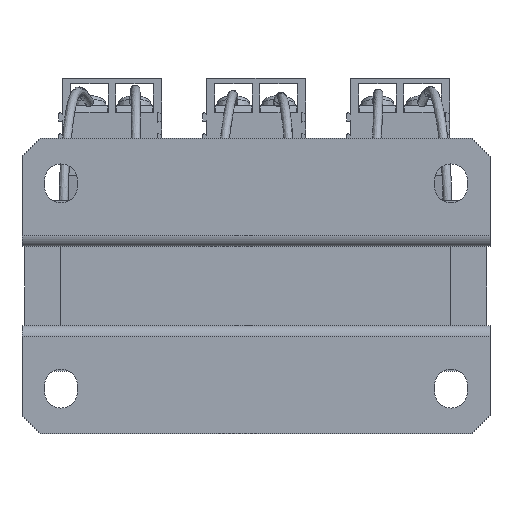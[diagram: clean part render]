
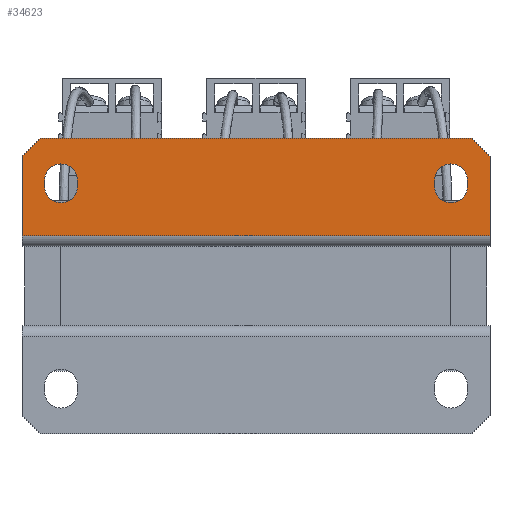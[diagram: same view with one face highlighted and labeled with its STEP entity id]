
A CAD part, front view. The second image highlights one B-rep face of the part: STEP entity #34623.
In plain terms, the highlighted planar face has unit normal (0, -1, 0).
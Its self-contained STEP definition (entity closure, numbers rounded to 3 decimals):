
#3260=LINE('',#58619,#6714);
#3264=LINE('',#58626,#6718);
#3274=LINE('',#58654,#6728);
#3276=LINE('',#58658,#6730);
#3278=LINE('',#58663,#6732);
#3282=LINE('',#58672,#6736);
#3284=LINE('',#58679,#6738);
#3288=LINE('',#58688,#6742);
#3293=LINE('',#58707,#6747);
#3294=LINE('',#58709,#6748);
#6714=VECTOR('',#44637,10.);
#6718=VECTOR('',#44643,10.);
#6728=VECTOR('',#44665,10.);
#6730=VECTOR('',#44669,10.);
#6732=VECTOR('',#44673,10.);
#6736=VECTOR('',#44683,10.);
#6738=VECTOR('',#44691,10.);
#6742=VECTOR('',#44701,10.);
#6747=VECTOR('',#44730,10.);
#6748=VECTOR('',#44733,10.);
#7866=FACE_BOUND('',#11308,.T.);
#7867=FACE_BOUND('',#11309,.T.);
#9334=FACE_OUTER_BOUND('',#11307,.T.);
#11307=EDGE_LOOP('',(#27896,#27897,#27898,#27899,#27900,#27901));
#11308=EDGE_LOOP('',(#27902,#27903,#27904,#27905));
#11309=EDGE_LOOP('',(#27906,#27907,#27908,#27909));
#12474=CIRCLE('',#37134,2.75);
#12475=CIRCLE('',#37137,2.75);
#12476=CIRCLE('',#37140,2.75);
#12477=CIRCLE('',#37143,2.75);
#15143=VERTEX_POINT('',#58616);
#15144=VERTEX_POINT('',#58618);
#15146=VERTEX_POINT('',#58624);
#15158=VERTEX_POINT('',#58652);
#15159=VERTEX_POINT('',#58656);
#15160=VERTEX_POINT('',#58660);
#15161=VERTEX_POINT('',#58662);
#15162=VERTEX_POINT('',#58666);
#15163=VERTEX_POINT('',#58670);
#15164=VERTEX_POINT('',#58676);
#15165=VERTEX_POINT('',#58678);
#15166=VERTEX_POINT('',#58682);
#15167=VERTEX_POINT('',#58686);
#15169=VERTEX_POINT('',#58702);
#19497=EDGE_CURVE('',#15143,#15144,#3260,.T.);
#19501=EDGE_CURVE('',#15146,#15143,#3264,.T.);
#19515=EDGE_CURVE('',#15158,#15146,#3274,.T.);
#19517=EDGE_CURVE('',#15159,#15158,#3276,.T.);
#19519=EDGE_CURVE('',#15161,#15160,#3278,.T.);
#19522=EDGE_CURVE('',#15160,#15162,#12474,.T.);
#19524=EDGE_CURVE('',#15162,#15163,#3282,.T.);
#19525=EDGE_CURVE('',#15163,#15161,#12475,.T.);
#19527=EDGE_CURVE('',#15165,#15164,#3284,.T.);
#19530=EDGE_CURVE('',#15164,#15166,#12476,.T.);
#19532=EDGE_CURVE('',#15166,#15167,#3288,.T.);
#19533=EDGE_CURVE('',#15167,#15165,#12477,.T.);
#19542=EDGE_CURVE('',#15159,#15169,#3293,.T.);
#19543=EDGE_CURVE('',#15144,#15169,#3294,.T.);
#27896=ORIENTED_EDGE('',*,*,#19497,.F.);
#27897=ORIENTED_EDGE('',*,*,#19501,.F.);
#27898=ORIENTED_EDGE('',*,*,#19515,.F.);
#27899=ORIENTED_EDGE('',*,*,#19517,.F.);
#27900=ORIENTED_EDGE('',*,*,#19542,.T.);
#27901=ORIENTED_EDGE('',*,*,#19543,.F.);
#27902=ORIENTED_EDGE('',*,*,#19519,.T.);
#27903=ORIENTED_EDGE('',*,*,#19522,.T.);
#27904=ORIENTED_EDGE('',*,*,#19524,.T.);
#27905=ORIENTED_EDGE('',*,*,#19525,.T.);
#27906=ORIENTED_EDGE('',*,*,#19527,.T.);
#27907=ORIENTED_EDGE('',*,*,#19530,.T.);
#27908=ORIENTED_EDGE('',*,*,#19532,.T.);
#27909=ORIENTED_EDGE('',*,*,#19533,.T.);
#31081=PLANE('',#37155);
#34623=ADVANCED_FACE('',(#9334,#7866,#7867),#31081,.F.);
#37134=AXIS2_PLACEMENT_3D('',#58668,#44678,#44679);
#37137=AXIS2_PLACEMENT_3D('',#58674,#44686,#44687);
#37140=AXIS2_PLACEMENT_3D('',#58684,#44696,#44697);
#37143=AXIS2_PLACEMENT_3D('',#58690,#44704,#44705);
#37155=AXIS2_PLACEMENT_3D('',#58710,#44734,#44735);
#44637=DIRECTION('',(0.707,0.,-0.707));
#44643=DIRECTION('',(1.,0.,0.));
#44665=DIRECTION('',(0.707,0.,0.707));
#44669=DIRECTION('',(0.,0.,1.));
#44673=DIRECTION('',(0.,0.,-1.));
#44678=DIRECTION('center_axis',(0.,1.,0.));
#44679=DIRECTION('ref_axis',(0.,0.,
1.));
#44683=DIRECTION('',(0.,0.,1.));
#44686=DIRECTION('center_axis',(0.,1.,0.));
#44687=DIRECTION('ref_axis',(1.,0.,0.));
#44691=DIRECTION('',(0.,0.,1.));
#44696=DIRECTION('center_axis',(0.,1.,0.));
#44697=DIRECTION('ref_axis',(0.,0.,
-1.));
#44701=DIRECTION('',(0.,0.,-1.));
#44704=DIRECTION('center_axis',(0.,1.,0.));
#44705=DIRECTION('ref_axis',(-1.,0.,0.));
#44730=DIRECTION('',(1.,0.,0.));
#44733=DIRECTION('',(0.,0.,-1.));
#44734=DIRECTION('center_axis',(0.,1.,0.));
#44735=DIRECTION('ref_axis',(1.,0.,0.));
#58616=CARTESIAN_POINT('',(36.,-34.8,24.6));
#58618=CARTESIAN_POINT('',(39.,-34.8,21.6));
#58619=CARTESIAN_POINT('',(30.,-34.8,30.6));
#58624=CARTESIAN_POINT('',(-36.,-34.8,24.6));
#58626=CARTESIAN_POINT('',(-39.,-34.8,24.6));
#58652=CARTESIAN_POINT('',(-39.,-34.8,21.6));
#58654=CARTESIAN_POINT('',(-30.,-34.8,30.6));
#58656=CARTESIAN_POINT('',(-39.,-34.8,8.4));
#58658=CARTESIAN_POINT('',(-39.,-34.8,6.6));
#58660=CARTESIAN_POINT('',(-29.75,-34.8,16.6));
#58662=CARTESIAN_POINT('',(-29.75,-34.8,17.6));
#58663=CARTESIAN_POINT('',(-29.75,-34.8,16.1));
#58666=CARTESIAN_POINT('',(-35.25,-34.8,16.6));
#58668=CARTESIAN_POINT('Origin',(-32.5,-34.8,16.6));
#58670=CARTESIAN_POINT('',(-35.25,-34.8,17.6));
#58672=CARTESIAN_POINT('',(-35.25,-34.8,16.6));
#58674=CARTESIAN_POINT('Origin',(-32.5,-34.8,17.6));
#58676=CARTESIAN_POINT('',(29.75,-34.8,17.6));
#58678=CARTESIAN_POINT('',(29.75,-34.8,16.6));
#58679=CARTESIAN_POINT('',(29.75,-34.8,16.6));
#58682=CARTESIAN_POINT('',(35.25,-34.8,17.6));
#58684=CARTESIAN_POINT('Origin',(32.5,-34.8,17.6));
#58686=CARTESIAN_POINT('',(35.25,-34.8,16.6));
#58688=CARTESIAN_POINT('',(35.25,-34.8,16.1));
#58690=CARTESIAN_POINT('Origin',(32.5,-34.8,16.6));
#58702=CARTESIAN_POINT('',(39.,-34.8,8.4));
#58707=CARTESIAN_POINT('',(19.5,-34.8,8.4));
#58709=CARTESIAN_POINT('',(39.,-34.8,24.6));
#58710=CARTESIAN_POINT('Origin',(0.,-34.8,15.6));
